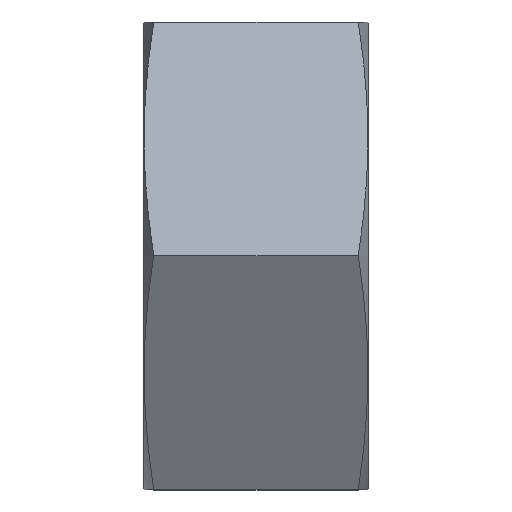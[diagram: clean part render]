
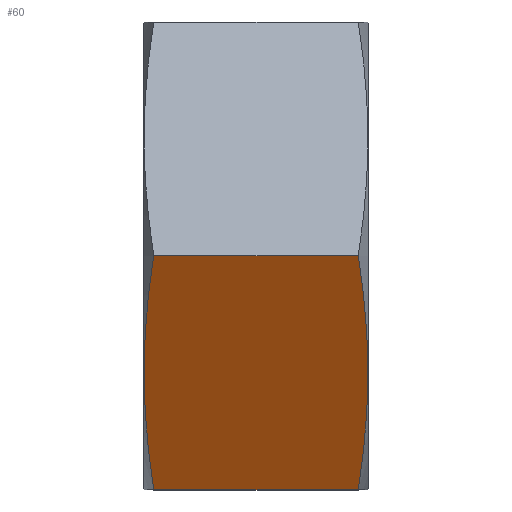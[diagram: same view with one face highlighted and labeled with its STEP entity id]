
A CAD part, top view. The second image highlights one B-rep face of the part: STEP entity #60.
In plain terms, the highlighted planar face has unit normal (0, -0.5, 0.866).
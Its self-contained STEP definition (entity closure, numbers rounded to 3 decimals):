
#60 = ADVANCED_FACE( '', ( #125 ), #126, .F. );
#125 = FACE_OUTER_BOUND( '', #190, .T. );
#126 = PLANE( '', #191 );
#190 = EDGE_LOOP( '', ( #286, #287, #288, #289 ) );
#191 = AXIS2_PLACEMENT_3D( '', #290, #291, #292 );
#286 = ORIENTED_EDGE( '', *, *, #331, .F. );
#287 = ORIENTED_EDGE( '', *, *, #361, .T. );
#288 = ORIENTED_EDGE( '', *, *, #364, .T. );
#289 = ORIENTED_EDGE( '', *, *, #342, .F. );
#290 = CARTESIAN_POINT( '', ( -24., -25., 14.434 ) );
#291 = DIRECTION( '', ( 0., 0.5, -0.866 ) );
#292 = DIRECTION( '', ( 0., 0.866, 0.5 ) );
#331 = EDGE_CURVE( '', #374, #375, #376, .T. );
#342 = EDGE_CURVE( '', #375, #394, #395, .T. );
#361 = EDGE_CURVE( '', #374, #421, #423, .T. );
#364 = EDGE_CURVE( '', #421, #394, #426, .T. );
#374 = VERTEX_POINT( '', #438 );
#375 = VERTEX_POINT( '', #439 );
#376 = B_SPLINE_CURVE_WITH_KNOTS( '', 3, ( #440, #441, #442, #443, #444, #445, #446, #447, #448 ), .UNSPECIFIED., .F., .F., ( 4, 2, 1, 2, 4 ), ( 0., 0.007, 0.014, 0.022, 0.029 ), .UNSPECIFIED. );
#394 = VERTEX_POINT( '', #508 );
#395 = LINE( '', #509, #510 );
#421 = VERTEX_POINT( '', #565 );
#423 = LINE( '', #576, #577 );
#426 = B_SPLINE_CURVE_WITH_KNOTS( '', 3, ( #580, #581, #582, #583, #584, #585, #586, #587, #588 ), .UNSPECIFIED., .F., .F., ( 4, 2, 1, 2, 4 ), ( 0., 0.007, 0.014, 0.022, 0.029 ), .UNSPECIFIED. );
#438 = CARTESIAN_POINT( '', ( -22.937, -25., 14.434 ) );
#439 = CARTESIAN_POINT( '', ( -22.937, 0., 28.868 ) );
#440 = CARTESIAN_POINT( '', ( -22.937, -25., 14.434 ) );
#441 = CARTESIAN_POINT( '', ( -23.259, -22.917, 15.637 ) );
#442 = CARTESIAN_POINT( '', ( -23.521, -20.833, 16.839 ) );
#443 = CARTESIAN_POINT( '', ( -23.878, -16.667, 19.245 ) );
#444 = CARTESIAN_POINT( '', ( -24.068, -12.5, 21.651 ) );
#445 = CARTESIAN_POINT( '', ( -23.878, -8.333, 24.056 ) );
#446 = CARTESIAN_POINT( '', ( -23.521, -4.167, 26.462 ) );
#447 = CARTESIAN_POINT( '', ( -23.259, -2.083, 27.665 ) );
#448 = CARTESIAN_POINT( '', ( -22.937, 0., 28.868 ) );
#508 = CARTESIAN_POINT( '', ( -1.063, 0., 28.868 ) );
#509 = CARTESIAN_POINT( '', ( -24., 0., 28.868 ) );
#510 = VECTOR( '', #616, 1000. );
#565 = CARTESIAN_POINT( '', ( -1.063, -25., 14.434 ) );
#576 = CARTESIAN_POINT( '', ( -24., -25., 14.434 ) );
#577 = VECTOR( '', #633, 1000. );
#580 = CARTESIAN_POINT( '', ( -1.063, -25., 14.434 ) );
#581 = CARTESIAN_POINT( '', ( -0.741, -22.917, 15.637 ) );
#582 = CARTESIAN_POINT( '', ( -0.479, -20.833, 16.839 ) );
#583 = CARTESIAN_POINT( '', ( -0.122, -16.667, 19.245 ) );
#584 = CARTESIAN_POINT( '', ( 0.068, -12.5, 21.651 ) );
#585 = CARTESIAN_POINT( '', ( -0.122, -8.333, 24.056 ) );
#586 = CARTESIAN_POINT( '', ( -0.479, -4.167, 26.462 ) );
#587 = CARTESIAN_POINT( '', ( -0.741, -2.083, 27.665 ) );
#588 = CARTESIAN_POINT( '', ( -1.063, 0., 28.868 ) );
#616 = DIRECTION( '', ( 1., 0., 0. ) );
#633 = DIRECTION( '', ( 1., 0., 0. ) );
